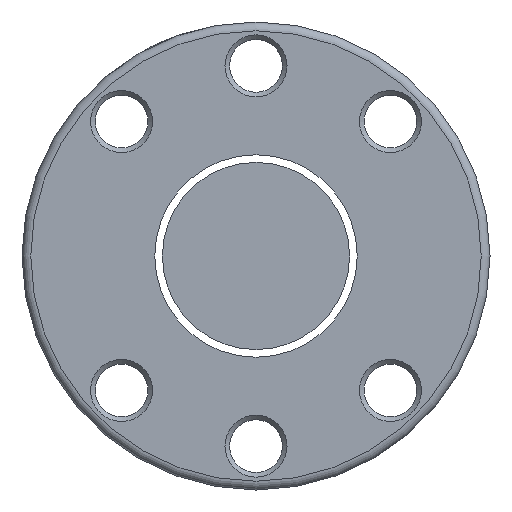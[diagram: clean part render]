
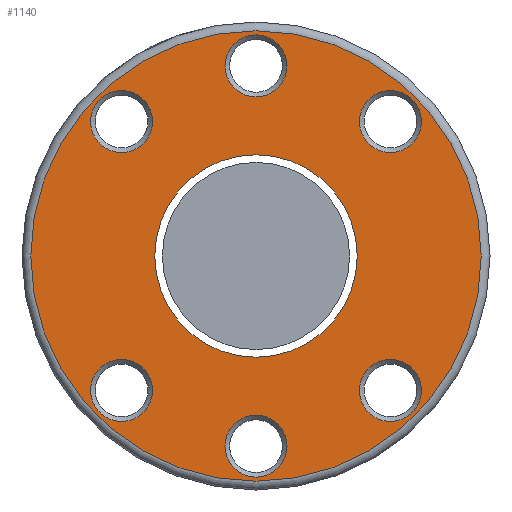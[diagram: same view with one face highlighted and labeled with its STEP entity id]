
A CAD part, left-side view. The second image highlights one B-rep face of the part: STEP entity #1140.
In plain terms, the highlighted planar face has unit normal (-1, 0, 0).
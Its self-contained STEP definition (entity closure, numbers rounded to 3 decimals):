
#10 = CARTESIAN_POINT ( 'NONE',  ( -65., 22.981, 28.281 ) ) ;
#27 = ORIENTED_EDGE ( 'NONE', *, *, #433, .T. ) ;
#49 = EDGE_LOOP ( 'NONE', ( #1292 ) ) ;
#57 = CARTESIAN_POINT ( 'NONE',  ( -65., 0., -17.3 ) ) ;
#92 = DIRECTION ( 'NONE',  ( 0., 0., -1. ) ) ;
#160 = DIRECTION ( 'NONE',  ( 1., 0., 0. ) ) ;
#161 = EDGE_CURVE ( 'NONE', #1671, #1671, #259, .T. ) ;
#176 = EDGE_LOOP ( 'NONE', ( #1977 ) ) ;
#196 = CARTESIAN_POINT ( 'NONE',  ( -65., 0., -27.2 ) ) ;
#210 = CIRCLE ( 'NONE', #580, 5.3 ) ;
#214 = CARTESIAN_POINT ( 'NONE',  ( -65., 40., 0. ) ) ;
#259 = CIRCLE ( 'NONE', #1536, 5.3 ) ;
#274 = CIRCLE ( 'NONE', #2349, 5.3 ) ;
#306 = EDGE_CURVE ( 'NONE', #1285, #1285, #210, .T. ) ;
#347 = CARTESIAN_POINT ( 'NONE',  ( -65., 0., 0. ) ) ;
#363 = CARTESIAN_POINT ( 'NONE',  ( -65., 22.981, 22.981 ) ) ;
#385 = FACE_BOUND ( 'NONE', #1913, .T. ) ;
#400 = ORIENTED_EDGE ( 'NONE', *, *, #553, .T. ) ;
#422 = PLANE ( 'NONE',  #944 ) ;
#427 = EDGE_LOOP ( 'NONE', ( #469 ) ) ;
#433 = EDGE_CURVE ( 'NONE', #649, #649, #2573, .T. ) ;
#463 = CARTESIAN_POINT ( 'NONE',  ( -65., -22.981, -17.681 ) ) ;
#469 = ORIENTED_EDGE ( 'NONE', *, *, #1763, .T. ) ;
#506 = CARTESIAN_POINT ( 'NONE',  ( -65., 22.981, -17.681 ) ) ;
#513 = ORIENTED_EDGE ( 'NONE', *, *, #2534, .T. ) ;
#553 = EDGE_CURVE ( 'NONE', #2306, #2306, #2015, .T. ) ;
#574 = AXIS2_PLACEMENT_3D ( 'NONE', #1783, #1355, #1560 ) ;
#580 = AXIS2_PLACEMENT_3D ( 'NONE', #1473, #1386, #1681 ) ;
#602 = DIRECTION ( 'NONE',  ( -1., 0., 0. ) ) ;
#634 = CARTESIAN_POINT ( 'NONE',  ( -65., -22.981, -22.981 ) ) ;
#649 = VERTEX_POINT ( 'NONE', #463 ) ;
#831 = FACE_BOUND ( 'NONE', #427, .T. ) ;
#844 = CARTESIAN_POINT ( 'NONE',  ( -65., 0., -32.5 ) ) ;
#904 = DIRECTION ( 'NONE',  ( 1., 0., 0. ) ) ;
#923 = ORIENTED_EDGE ( 'NONE', *, *, #1045, .T. ) ;
#936 = CARTESIAN_POINT ( 'NONE',  ( -65., 22.981, -22.981 ) ) ;
#944 = AXIS2_PLACEMENT_3D ( 'NONE', #214, #602, #2271 ) ;
#1037 = ORIENTED_EDGE ( 'NONE', *, *, #306, .T. ) ;
#1045 = EDGE_CURVE ( 'NONE', #2086, #2086, #2697, .T. ) ;
#1048 = AXIS2_PLACEMENT_3D ( 'NONE', #2073, #160, #2270 ) ;
#1084 = CARTESIAN_POINT ( 'NONE',  ( -65., 0., 38.5 ) ) ;
#1116 = CIRCLE ( 'NONE', #2080, 17.3 ) ;
#1140 = ADVANCED_FACE ( 'NONE', ( #1635, #1441, #385, #2308, #2680, #831, #1660, #2475 ), #422, .T. ) ;
#1161 = EDGE_LOOP ( 'NONE', ( #400 ) ) ;
#1203 = DIRECTION ( 'NONE',  ( 1., 0., 0. ) ) ;
#1285 = VERTEX_POINT ( 'NONE', #2354 ) ;
#1292 = ORIENTED_EDGE ( 'NONE', *, *, #161, .T. ) ;
#1346 = EDGE_LOOP ( 'NONE', ( #27 ) ) ;
#1355 = DIRECTION ( 'NONE',  ( -1., 0., 0. ) ) ;
#1386 = DIRECTION ( 'NONE',  ( 1., 0., 0. ) ) ;
#1387 = DIRECTION ( 'NONE',  ( 0., 0., 1. ) ) ;
#1441 = FACE_BOUND ( 'NONE', #49, .T. ) ;
#1473 = CARTESIAN_POINT ( 'NONE',  ( -65., 0., 32.5 ) ) ;
#1518 = CIRCLE ( 'NONE', #1048, 5.3 ) ;
#1536 = AXIS2_PLACEMENT_3D ( 'NONE', #363, #1203, #2614 ) ;
#1560 = DIRECTION ( 'NONE',  ( 0., 0., 1. ) ) ;
#1574 = VERTEX_POINT ( 'NONE', #506 ) ;
#1635 = FACE_OUTER_BOUND ( 'NONE', #1161, .T. ) ;
#1656 = AXIS2_PLACEMENT_3D ( 'NONE', #634, #2640, #2653 ) ;
#1660 = FACE_BOUND ( 'NONE', #1739, .T. ) ;
#1671 = VERTEX_POINT ( 'NONE', #10 ) ;
#1681 = DIRECTION ( 'NONE',  ( 0., 0., 1. ) ) ;
#1726 = EDGE_LOOP ( 'NONE', ( #923 ) ) ;
#1739 = EDGE_LOOP ( 'NONE', ( #1037 ) ) ;
#1763 = EDGE_CURVE ( 'NONE', #2621, #2621, #1518, .T. ) ;
#1783 = CARTESIAN_POINT ( 'NONE',  ( -65., 0., 0. ) ) ;
#1797 = CARTESIAN_POINT ( 'NONE',  ( -65., -22.981, 28.281 ) ) ;
#1913 = EDGE_LOOP ( 'NONE', ( #513 ) ) ;
#1977 = ORIENTED_EDGE ( 'NONE', *, *, #2503, .T. ) ;
#2015 = CIRCLE ( 'NONE', #574, 38.5 ) ;
#2025 = DIRECTION ( 'NONE',  ( 1., 0., 0. ) ) ;
#2073 = CARTESIAN_POINT ( 'NONE',  ( -65., -22.981, 22.981 ) ) ;
#2080 = AXIS2_PLACEMENT_3D ( 'NONE', #347, #2025, #92 ) ;
#2086 = VERTEX_POINT ( 'NONE', #196 ) ;
#2103 = DIRECTION ( 'NONE',  ( 1., 0., 0. ) ) ;
#2270 = DIRECTION ( 'NONE',  ( 0., 0., 1. ) ) ;
#2271 = DIRECTION ( 'NONE',  ( 0., 0., 1. ) ) ;
#2306 = VERTEX_POINT ( 'NONE', #1084 ) ;
#2308 = FACE_BOUND ( 'NONE', #1726, .T. ) ;
#2340 = AXIS2_PLACEMENT_3D ( 'NONE', #844, #2103, #2707 ) ;
#2349 = AXIS2_PLACEMENT_3D ( 'NONE', #936, #904, #1387 ) ;
#2354 = CARTESIAN_POINT ( 'NONE',  ( -65., 0., 37.8 ) ) ;
#2384 = VERTEX_POINT ( 'NONE', #57 ) ;
#2475 = FACE_BOUND ( 'NONE', #176, .T. ) ;
#2503 = EDGE_CURVE ( 'NONE', #2384, #2384, #1116, .T. ) ;
#2534 = EDGE_CURVE ( 'NONE', #1574, #1574, #274, .T. ) ;
#2573 = CIRCLE ( 'NONE', #1656, 5.3 ) ;
#2614 = DIRECTION ( 'NONE',  ( 0., 0., 1. ) ) ;
#2621 = VERTEX_POINT ( 'NONE', #1797 ) ;
#2640 = DIRECTION ( 'NONE',  ( 1., 0., 0. ) ) ;
#2653 = DIRECTION ( 'NONE',  ( 0., 0., 1. ) ) ;
#2680 = FACE_BOUND ( 'NONE', #1346, .T. ) ;
#2697 = CIRCLE ( 'NONE', #2340, 5.3 ) ;
#2707 = DIRECTION ( 'NONE',  ( 0., 0., 1. ) ) ;
